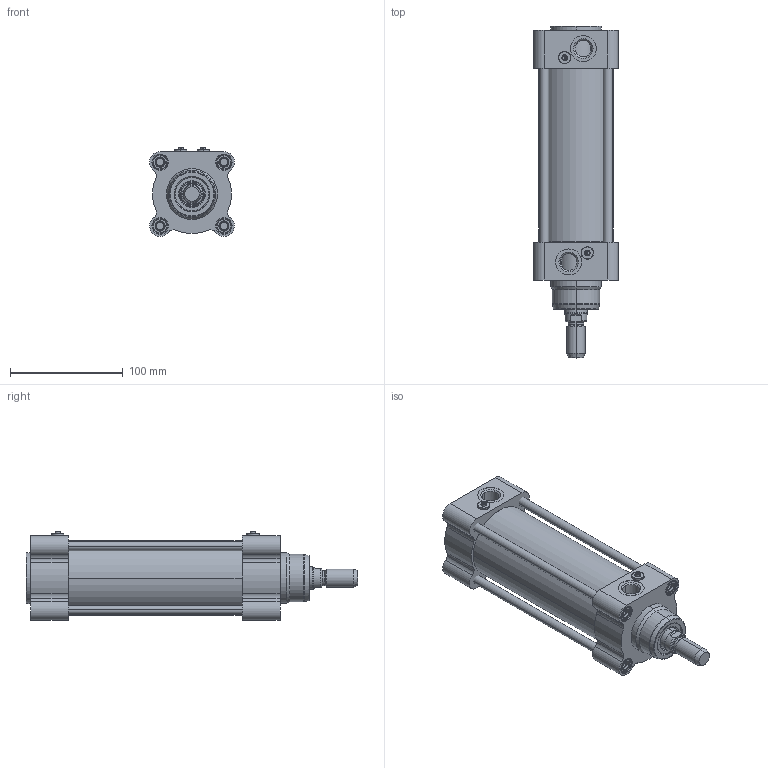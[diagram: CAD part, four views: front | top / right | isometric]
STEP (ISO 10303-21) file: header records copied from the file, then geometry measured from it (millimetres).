
FILE_DESCRIPTION (( 'STEP AP203' ), '1' );
FILE_NAME ('CTMI63-100.STEP', '2020-03-26T19:30:40', ( '' ), ( '' ), 'SwSTEP 2.0', 'SolidWorks 2019', '' );
FILE_SCHEMA (( 'CONFIG_CONTROL_DESIGN' ));
Length unit declared in the file: millimetre
Products named in the file (1): CTMI63-100
Bounding box: 74.97 x 294 x 78.68 mm (x, y, z)
Surface area: 170003.8 mm2 (no closed solid volume)
Topology: 0 solids, 24 shells, 731 faces, 1692 edges, 1048 vertices
Faces by surface type: cone 229, cylinder 203, plane 195, torus 88, bspline 16
Entity records: 23937 total; most frequent: CARTESIAN_POINT 7595, DIRECTION 3498, ORIENTED_EDGE 3336, EDGE_CURVE 1692, AXIS2_PLACEMENT_3D 1428, VERTEX_POINT 1048, EDGE_LOOP 804, FACE_OUTER_BOUND 731
